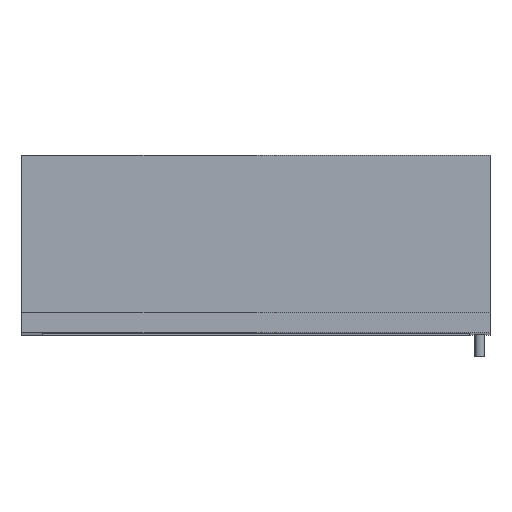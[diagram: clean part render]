
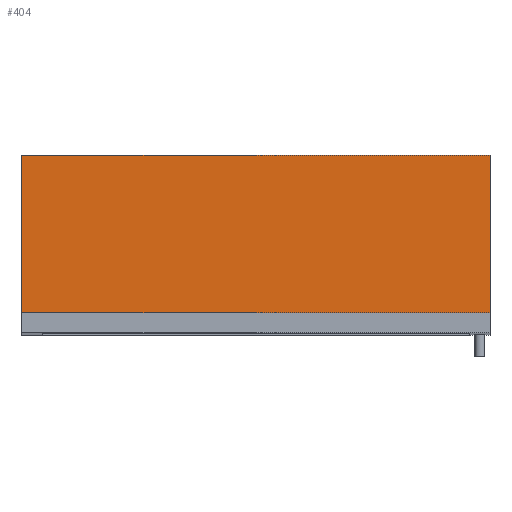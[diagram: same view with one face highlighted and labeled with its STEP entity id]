
A CAD part, top view. The second image highlights one B-rep face of the part: STEP entity #404.
In plain terms, the highlighted planar face has unit normal (0, 0, 1).
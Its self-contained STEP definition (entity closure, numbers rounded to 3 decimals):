
#113=B_SPLINE_CURVE_WITH_KNOTS('',1,(#3654,#3655),.UNSPECIFIED.,.F.,.F.,
(2,2),(-934.,-816.),.UNSPECIFIED.);
#117=B_SPLINE_CURVE_WITH_KNOTS('',1,(#3662,#3663),.UNSPECIFIED.,.F.,.F.,
(2,2),(-816.,-467.),.UNSPECIFIED.);
#120=B_SPLINE_CURVE_WITH_KNOTS('',1,(#3668,#3669),.UNSPECIFIED.,.F.,.F.,
(2,2),(-467.,-349.),.UNSPECIFIED.);
#123=B_SPLINE_CURVE_WITH_KNOTS('',1,(#3674,#3675),.UNSPECIFIED.,.F.,.F.,
(2,2),(-349.,0.),.UNSPECIFIED.);
#404=ADVANCED_FACE('',(#563),#2162,.T.);
#563=FACE_OUTER_BOUND('',#727,.T.);
#727=EDGE_LOOP('',(#1186,#1187,#1188,#1189));
#1186=ORIENTED_EDGE('',*,*,#1594,.F.);
#1187=ORIENTED_EDGE('',*,*,#1591,.F.);
#1188=ORIENTED_EDGE('',*,*,#1588,.F.);
#1189=ORIENTED_EDGE('',*,*,#1584,.F.);
#1584=EDGE_CURVE('',#2002,#2003,#113,.T.);
#1588=EDGE_CURVE('',#2003,#2006,#117,.T.);
#1591=EDGE_CURVE('',#2006,#2008,#120,.T.);
#1594=EDGE_CURVE('',#2008,#2002,#123,.T.);
#2002=VERTEX_POINT('',#3590);
#2003=VERTEX_POINT('',#3591);
#2006=VERTEX_POINT('',#3594);
#2008=VERTEX_POINT('',#3596);
#2162=PLANE('',#2511);
#2511=AXIS2_PLACEMENT_3D('',#3555,#2810,$);
#2810=DIRECTION('',(0.,0.,1.));
#3555=CARTESIAN_POINT('',(-626.995,-4.721,1950.));
#3590=CARTESIAN_POINT('',(-976.995,-4.721,1950.));
#3591=CARTESIAN_POINT('',(-976.995,113.279,1950.));
#3594=CARTESIAN_POINT('',(-626.995,113.279,1950.));
#3596=CARTESIAN_POINT('',(-626.995,-4.721,1950.));
#3654=CARTESIAN_POINT('',(-976.995,-4.721,1950.));
#3655=CARTESIAN_POINT('',(-976.995,113.279,1950.));
#3662=CARTESIAN_POINT('',(-976.995,113.279,1950.));
#3663=CARTESIAN_POINT('',(-626.995,113.279,1950.));
#3668=CARTESIAN_POINT('',(-626.995,113.279,1950.));
#3669=CARTESIAN_POINT('',(-626.995,-4.721,1950.));
#3674=CARTESIAN_POINT('',(-626.995,-4.721,1950.));
#3675=CARTESIAN_POINT('',(-976.995,-4.721,1950.));
